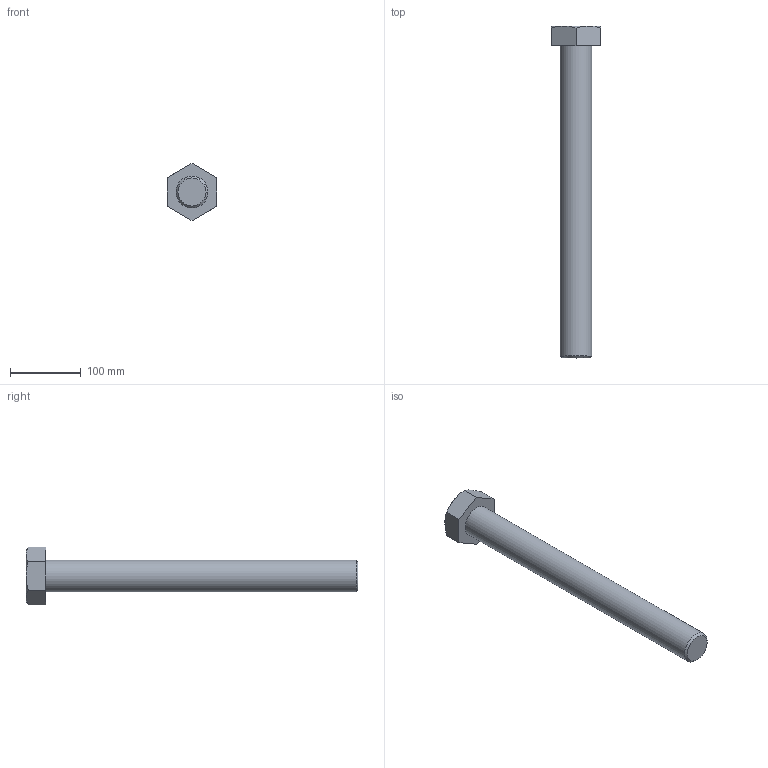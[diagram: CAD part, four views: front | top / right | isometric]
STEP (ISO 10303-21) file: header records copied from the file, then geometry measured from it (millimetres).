
FILE_DESCRIPTION(/* description */ (''),/* implementation_level */ '2;1');
FILE_NAME(/* name */ 'C:\Users\unitec\Documents\Inventor\各種小物\JIS\JIS B 1180 六角ボルト 等級C\hbc45\M45x440.stp',/* time_stamp */ '2015-02-13T14:58:19+09:00',/* author */ ('unitec'),/* organization */ (''),/* preprocessor_version */ 'ST-DEVELOPER v15.2',/* originating_system */ 'Autodesk Inventor 2014',/* authorisation */ '');
FILE_SCHEMA (('AUTOMOTIVE_DESIGN { 1 0 10303 214 3 1 1 }'));
Length unit declared in the file: millimetre
Products named in the file (1): M45x440
Bounding box: 70 x 468 x 80.83 mm (x, y, z)
Volume: 817719.7 mm3; surface area: 77042.9 mm2
Topology: 1 solids, 1 shells, 17 faces, 35 edges, 21 vertices
Faces by surface type: plane 9, cone 7, cylinder 1
Full cylindrical faces by diameter (mm): 45 x1
Entity records: 441 total; most frequent: CARTESIAN_POINT 96, ORIENTED_EDGE 66, DIRECTION 66, EDGE_CURVE 33, AXIS2_PLACEMENT_3D 27, VERTEX_POINT 21, EDGE_LOOP 20, ADVANCED_FACE 17
